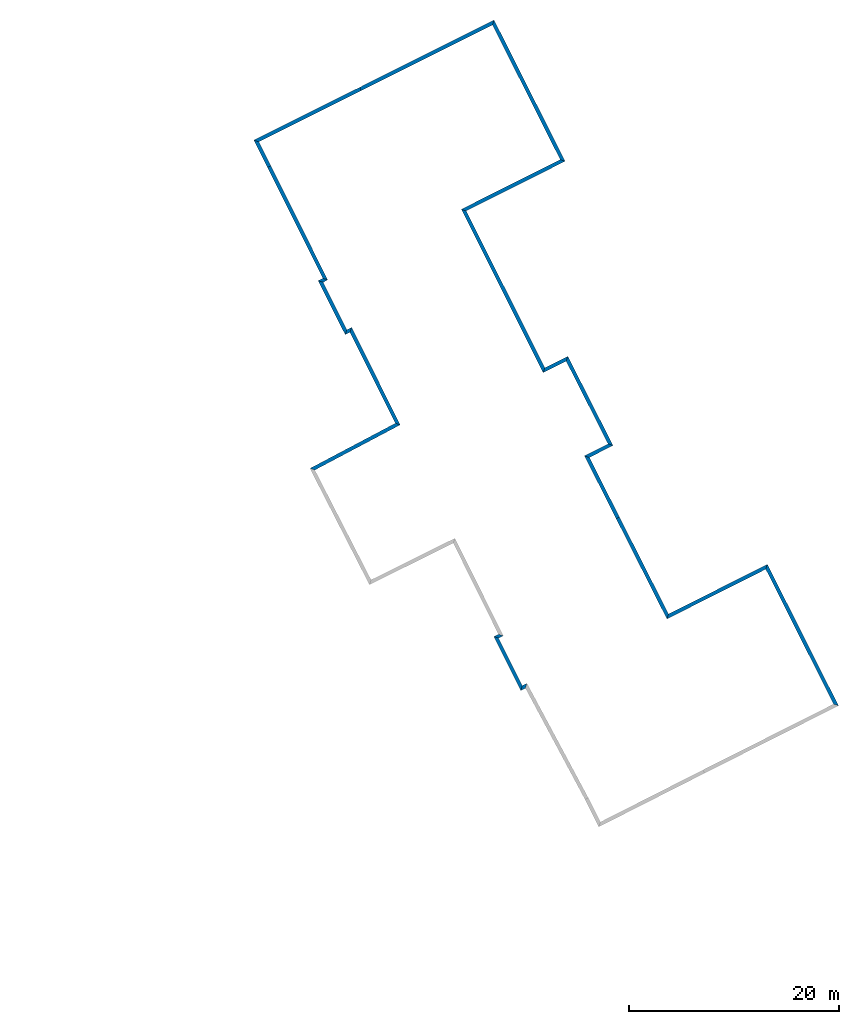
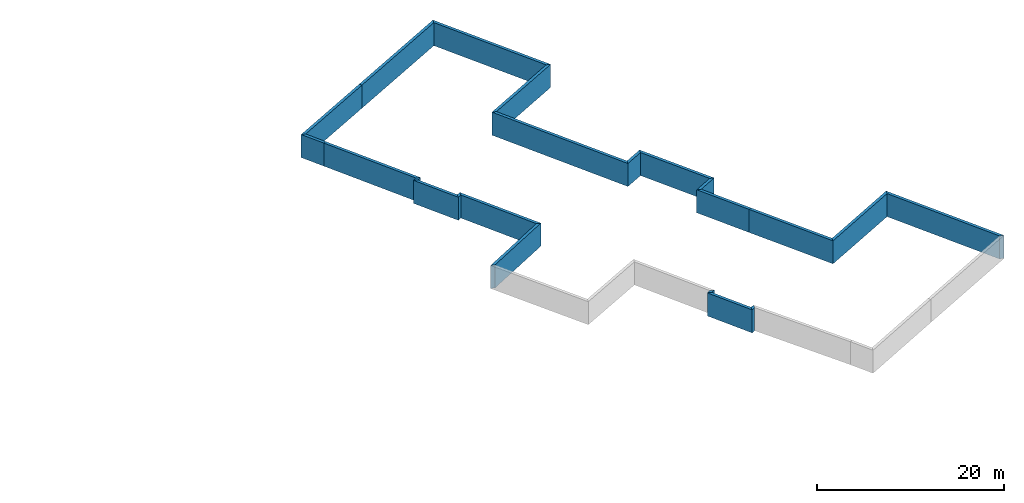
# One storey, part 2 of 8: 22 walls.
"""IFC2X3 building model written with IfcOpenShell, lengths in metres."""

from ifc_helpers import new_model, entity, si_unit, converted_unit, derived_unit, money_unit, direction, frame, origin_with_axes, place, context, subcontext, project, spatial, polyline, outline, extrude, material, layer, layer_set, layer_usage, type_object, element, save


model = new_model("IFC2X3")

# Units and contexts
model_context = context("Model", 3, precision=1e-05, world=origin_with_axes(), true_north=direction((0.0, 1.0)))
body_context = subcontext(model_context, "Body", "Model", "MODEL_VIEW")
ifc_project = project(units=[si_unit("LENGTHUNIT", "METRE"), si_unit("AREAUNIT", "SQUARE_METRE"), si_unit("VOLUMEUNIT", "CUBIC_METRE"), converted_unit("PLANEANGLEUNIT", "DEGREE", entity("IfcPlaneAngleMeasure", 0.0174532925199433), si_unit("PLANEANGLEUNIT", "RADIAN"), dimensions=[0, 0, 0, 0, 0, 0, 0]), money_unit("EUR"), converted_unit("TIMEUNIT", "Year", entity("IfcTimeMeasure", 31557600.0), si_unit("TIMEUNIT", "SECOND"), dimensions=[0, 0, 1, 0, 0, 0, 0]), si_unit("MASSUNIT", "GRAM", prefix="KILO"), si_unit("THERMODYNAMICTEMPERATUREUNIT", "DEGREE_CELSIUS"), si_unit("LUMINOUSINTENSITYUNIT", "LUMEN"), si_unit("ENERGYUNIT", "JOULE", prefix="MEGA"), derived_unit("THERMALCONDUCTANCEUNIT", [(si_unit("POWERUNIT", "WATT"), 1), (si_unit("LENGTHUNIT", "METRE"), -1), (si_unit("THERMODYNAMICTEMPERATUREUNIT", "KELVIN"), -1)]), derived_unit("SPECIFICHEATCAPACITYUNIT", [(si_unit("ENERGYUNIT", "JOULE"), 1), (si_unit("MASSUNIT", "GRAM", prefix="KILO"), -1), (si_unit("THERMODYNAMICTEMPERATUREUNIT", "KELVIN"), -1)]), derived_unit("MASSDENSITYUNIT", [(si_unit("MASSUNIT", "GRAM", prefix="KILO"), 1), (si_unit("VOLUMEUNIT", "CUBIC_METRE"), -1)])], contexts=[model_context])

# Site, building, storey
site_placement = place(None, origin_with_axes())
site = spatial("IfcSite", under=ifc_project, at=site_placement, Name="Site", CompositionType="ELEMENT")
building_placement = place(site_placement, origin_with_axes())
building = spatial("IfcBuilding", under=site, at=building_placement, Name="Bâtiment", CompositionType="ELEMENT")
storey_placement = place(building_placement, frame((0.0, 0.0, 7.12), z_axis=(0.0, 0.0, 1.0), x_axis=(1.0, 0.0, 0.0)))
storey = spatial("IfcBuildingStorey", under=building, at=storey_placement, Name="Combles", CompositionType="ELEMENT", Elevation=7.12)

# Walls
ifc_material_1 = material(Name="*GENERIQUE - ENDUIT EXT")
ifc_layer_1 = layer(ifc_material_1, 0.02, ventilated="UNKNOWN")
ifc_material_2 = material(Name="*GENERIQUE - MAÇONNERIE")
ifc_layer_2 = layer(ifc_material_2, 0.2, ventilated="UNKNOWN")
ifc_material_3 = material(Name="*GENERIQUE - ISOLATION INT")
ifc_layer_3 = layer(ifc_material_3, 0.12, ventilated="UNKNOWN")
ifc_material_4 = material(Name="*PLAQUE DE PLATRE - DOUBLAGE")
ifc_layer_4 = layer(ifc_material_4, 0.013, ventilated="UNKNOWN")
ifc_layer_set = layer_set([ifc_layer_1, ifc_layer_2, ifc_layer_3, ifc_layer_4], Name="*Mur MITI 36")
ifc_layer_usage_1 = layer_usage(ifc_layer_set, "AXIS2", "POSITIVE", -0.02)
wall_type = type_object("IfcWallType", Name="*Mur MITI 36 353", PredefinedType="NOTDEFINED")
wall_1_placement = place(storey_placement, frame((183.0845130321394, -23.9757343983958, -6.700573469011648), z_axis=(0.0, 0.0, 1.0), x_axis=(-0.8932285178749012, -0.4496029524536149, 0.0)))
element("IfcWallStandardCase", 1, at=wall_1_placement, inside=storey, type_object=wall_type, material=ifc_layer_usage_1, Name="MC_AGL_Ext-042", context=body_context, shape_type="SweptSolid", body=[
    extrude(outline(polyline([(0.01988014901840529, -0.01999999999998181), (0.5172173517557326, -0.01999999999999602), (0.1655467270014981, 0.3330000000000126), (-0.3310044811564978, 0.3329999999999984), (0.01988014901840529, -0.01999999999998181)])), origin_with_axes(), (0.0, 0.0, 1.0), 3.0),
])
ifc_layer_usage_2 = layer_usage(ifc_layer_set, "AXIS2", "POSITIVE", -0.02)
wall_2_placement = place(storey_placement, frame((182.6403170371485, -24.1993186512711, -6.700573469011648), z_axis=(0.0, 0.0, 1.0), x_axis=(0.4462295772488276, -0.8949185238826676, 0.0)))
element("IfcWallStandardCase", 2, at=wall_2_placement, inside=storey, type_object=wall_type, material=ifc_layer_usage_2, Name="MC_AGL_Ext-043", context=body_context, shape_type="SweptSolid", body=[
    extrude(outline(polyline([(-0.0199246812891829, -0.02000000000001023), (5.723185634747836, -0.02000000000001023), (5.361943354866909, 0.33299999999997), (0.3317459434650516, 0.3329999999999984), (-0.0199246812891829, -0.02000000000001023)])), origin_with_axes(), (0.0, 0.0, 1.0), 3.0),
])
ifc_layer_usage_3 = layer_usage(ifc_layer_set, "AXIS2", "POSITIVE", -0.02)
wall_3_placement = place(storey_placement, frame((185.1850387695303, -29.30278720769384, -6.700573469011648), z_axis=(0.0, 0.0, 1.0), x_axis=(0.8843826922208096, 0.4667625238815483, 0.0)))
element("IfcWallStandardCase", 3, at=wall_3_placement, inside=storey, type_object=wall_type, material=ifc_layer_usage_3, Name="MC_AGL_Ext-044", context=body_context, shape_type="SweptSolid", body=[
    extrude(outline(polyline([(-0.02046698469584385, -0.01999999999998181), (0.4801226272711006, -0.01999999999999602), (0.8309582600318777, 0.3330000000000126), (0.3407752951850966, 0.3329999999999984), (-0.02046698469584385, -0.01999999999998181)])), origin_with_axes(), (0.0, 0.0, 1.0), 3.0),
])
ifc_layer_usage_4 = layer_usage(ifc_layer_set, "AXIS2", "POSITIVE", -0.02)
wall_4_placement = place(storey_placement, frame((208.6131929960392, -17.3435025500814, -6.700573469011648), z_axis=(0.0, 0.0, 1.0), x_axis=(-0.8931855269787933, -0.4496883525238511, 0.0)))
element("IfcWallStandardCase", 4, at=wall_4_placement, inside=storey, type_object=wall_type, material=ifc_layer_usage_4, Name="MC_AGL_Ext-050", context=body_context, shape_type="SweptSolid", body=[
    extrude(outline(polyline([(-0.02000754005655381, -0.01999999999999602), (10.49598375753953, -0.01999999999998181), (10.84821639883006, 0.3329999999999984), (0.3331255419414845, 0.3330000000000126), (-0.02000754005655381, -0.01999999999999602)])), origin_with_axes(), (0.0, 0.0, 1.0), 3.0),
])
ifc_layer_usage_5 = layer_usage(ifc_layer_set, "AXIS2", "POSITIVE", -0.02)
wall_5_placement = place(storey_placement, frame((199.2205073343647, -22.07239841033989, -6.700573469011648), z_axis=(0.0, 0.0, 1.0), x_axis=(-0.4516310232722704, 0.8922048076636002, 0.0)))
element("IfcWallStandardCase", 5, at=wall_5_placement, inside=storey, type_object=wall_type, material=ifc_layer_usage_5, Name="MC_AGL_Ext-051", context=body_context, shape_type="SweptSolid", body=[
    extrude(outline(polyline([(0.019956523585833, -0.02000000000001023), (10.3562945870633, -0.02000000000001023), (10.35643300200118, 0.33299999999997), (-0.3322761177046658, 0.33299999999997), (0.019956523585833, -0.02000000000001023)])), origin_with_axes(), (0.0, 0.0, 1.0), 3.0),
])
ifc_layer_usage_6 = layer_usage(ifc_layer_set, "AXIS2", "POSITIVE", -0.02)
wall_6_placement = place(storey_placement, frame((194.5432798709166, -12.8324555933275, -6.700573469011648), z_axis=(0.0, 0.0, 1.0), x_axis=(-0.4509311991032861, 0.8925587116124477, 0.0)))
element("IfcWallStandardCase", 6, at=wall_6_placement, inside=storey, type_object=wall_type, material=ifc_layer_usage_6, Name="MC_AGL_Ext-052", context=body_context, shape_type="SweptSolid", body=[
    extrude(outline(polyline([(7.842206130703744e-06, -0.02000000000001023), (6.333469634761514, -0.02000000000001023), (6.685391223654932, 0.3329999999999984), (-0.0001305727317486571, 0.3329999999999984), (7.842206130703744e-06, -0.02000000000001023)])), origin_with_axes(), (0.0, 0.0, 1.0), 3.0),
])
ifc_layer_usage_7 = layer_usage(ifc_layer_set, "AXIS2", "POSITIVE", -0.02)
wall_7_placement = place(storey_placement, frame((191.6783297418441, -7.161665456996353, -6.700573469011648), z_axis=(0.0, 0.0, 1.0), x_axis=(0.8911748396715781, 0.4536600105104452, 0.0)))
element("IfcWallStandardCase", 7, at=wall_7_placement, inside=storey, type_object=wall_type, material=ifc_layer_usage_7, Name="MC_AGL_Ext-053", context=body_context, shape_type="SweptSolid", body=[
    extrude(outline(polyline([(0.01993890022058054, -0.01999999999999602), (2.540639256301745, -0.01999999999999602), (2.188261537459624, 0.3330000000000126), (-0.3319826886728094, 0.3330000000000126), (0.01993890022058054, -0.01999999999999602)])), origin_with_axes(), (0.0, 0.0, 1.0), 3.0),
])
ifc_layer_usage_8 = layer_usage(ifc_layer_set, "AXIS2", "POSITIVE", -0.02)
wall_8_placement = place(storey_placement, frame((193.924691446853, -6.01813623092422, -6.700573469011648), z_axis=(0.0, 0.0, 1.0), x_axis=(-0.4520869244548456, 0.8919738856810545, 0.0)))
element("IfcWallStandardCase", 8, at=wall_8_placement, inside=storey, type_object=wall_type, material=ifc_layer_usage_8, Name="MC_AGL_Ext-054", context=body_context, shape_type="SweptSolid", body=[
    extrude(outline(polyline([(-0.01996474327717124, -0.02000000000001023), (9.485964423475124, -0.01999999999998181), (9.135218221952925, 0.3329999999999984), (0.3324129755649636, 0.3330000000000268), (-0.01996474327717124, -0.02000000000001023)])), origin_with_axes(), (0.0, 0.0, 1.0), 3.0),
])
ifc_layer_usage_9 = layer_usage(ifc_layer_set, "AXIS2", "POSITIVE", -0.02)
wall_9_placement = place(storey_placement, frame((189.6451949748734, 2.425370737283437, -6.700573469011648), z_axis=(0.0, 0.0, 1.0), x_axis=(-0.8948512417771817, -0.4463644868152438, 0.0)))
element("IfcWallStandardCase", 9, at=wall_9_placement, inside=storey, type_object=wall_type, material=ifc_layer_usage_9, Name="MC_AGL_Ext-055", context=body_context, shape_type="SweptSolid", body=[
    extrude(outline(polyline([(-0.01987230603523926, -0.01999999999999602), (2.422678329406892, -0.02000000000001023), (2.775037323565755, 0.3329999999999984), (0.3308738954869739, 0.3329999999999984), (-0.01987230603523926, -0.01999999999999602)])), origin_with_axes(), (0.0, 0.0, 1.0), 3.0),
])
ifc_layer_usage_10 = layer_usage(ifc_layer_set, "AXIS2", "POSITIVE", -0.02)
wall_10_placement = place(storey_placement, frame((187.459393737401, 1.335062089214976, -6.700573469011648), z_axis=(0.0, 0.0, 1.0), x_axis=(-0.4479901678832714, 0.8940384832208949, 0.0)))
element("IfcWallStandardCase", 10, at=wall_10_placement, inside=storey, type_object=wall_type, material=ifc_layer_usage_10, Name="MC_AGL_Ext-056", context=body_context, shape_type="SweptSolid", body=[
    extrude(outline(polyline([(0.01996368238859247, -0.02000000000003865), (16.69333871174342, -0.02000000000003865), (17.04607948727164, 0.33299999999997), (-0.332395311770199, 0.33299999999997), (0.01996368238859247, -0.02000000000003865)])), origin_with_axes(), (0.0, 0.0, 1.0), 3.0),
])
ifc_layer_usage_11 = layer_usage(ifc_layer_set, "AXIS2", "POSITIVE", -0.02)
wall_11_placement = place(storey_placement, frame((179.9719889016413, 16.27741694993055, -6.700573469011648), z_axis=(0.0, 0.0, 1.0), x_axis=(0.8937091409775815, 0.4486468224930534, 0.0)))
element("IfcWallStandardCase", 11, at=wall_11_placement, inside=storey, type_object=wall_type, material=ifc_layer_usage_11, Name="MC_AGL_Ext-057", context=body_context, shape_type="SweptSolid", body=[
    extrude(outline(polyline([(0.01998531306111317, -0.01999999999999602), (10.5430071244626, -0.01999999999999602), (10.18960546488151, 0.3329999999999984), (-0.3327554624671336, 0.3329999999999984), (0.01998531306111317, -0.01999999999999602)])), origin_with_axes(), (0.0, 0.0, 1.0), 3.0),
])
ifc_layer_usage_12 = layer_usage(ifc_layer_set, "AXIS2", "POSITIVE", -0.02)
wall_12_placement = place(storey_placement, frame((189.3764762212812, 20.99852044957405, -6.700573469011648), z_axis=(0.0, 0.0, 1.0), x_axis=(-0.4496628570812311, 0.8931983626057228, 0.0)))
element("IfcWallStandardCase", 12, at=wall_12_placement, inside=storey, type_object=wall_type, material=ifc_layer_usage_12, Name="MC_AGL_Ext-017", context=body_context, shape_type="SweptSolid", body=[
    extrude(outline(polyline([(-0.02002275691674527, -0.01999999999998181), (15.01152960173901, -0.01999999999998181), (14.6593185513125, 0.3329999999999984), (0.3333789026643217, 0.3330000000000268), (-0.02002275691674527, -0.01999999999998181)])), origin_with_axes(), (0.0, 0.0, 1.0), 3.0),
])
ifc_layer_usage_13 = layer_usage(ifc_layer_set, "AXIS2", "POSITIVE", -0.02)
wall_13_placement = place(storey_placement, frame((182.635322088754, 34.38897006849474, -6.700573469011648), z_axis=(0.0, 0.0, 1.0), x_axis=(-0.8942022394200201, -0.4476632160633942, 0.0)))
element("IfcWallStandardCase", 13, at=wall_13_placement, inside=storey, type_object=wall_type, material=ifc_layer_usage_13, Name="MC_AGL_Ext-018", context=body_context, shape_type="SweptSolid", body=[
    extrude(outline(polyline([(-0.0199553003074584, -0.02000000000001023), (14.26808115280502, -0.02000000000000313), (14.26824210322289, 0.3330000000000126), (0.3322557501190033, 0.3329999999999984), (-0.0199553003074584, -0.02000000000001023)])), origin_with_axes(), (0.0, 0.0, 1.0), 3.0),
])
ifc_layer_usage_14 = layer_usage(ifc_layer_set, "AXIS2", "POSITIVE", -0.02)
wall_14_placement = place(storey_placement, frame((169.8767638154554, 28.00167089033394, -6.700573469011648), z_axis=(0.0, 0.0, 1.0), x_axis=(-0.8946100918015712, -0.4468476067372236, 0.0)))
element("IfcWallStandardCase", 14, at=wall_14_placement, inside=storey, type_object=wall_type, material=ifc_layer_usage_14, Name="MC_AGL_Ext-019", context=body_context, shape_type="SweptSolid", body=[
    extrude(outline(polyline([(9.119003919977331e-06, -0.01999999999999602), (11.24123613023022, -0.02000000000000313), (10.88781121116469, 0.3329999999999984), (-0.000151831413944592, 0.3330000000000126), (9.119003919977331e-06, -0.01999999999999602)])), origin_with_axes(), (0.0, 0.0, 1.0), 3.0),
])
ifc_layer_usage_15 = layer_usage(ifc_layer_set, "AXIS2", "POSITIVE", -0.02)
wall_15_placement = place(storey_placement, frame((161.132226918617, 20.40448230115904, -6.700573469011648), z_axis=(0.0, 0.0, 1.0), x_axis=(0.4463240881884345, -0.8948713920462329, 0.0)))
element("IfcWallStandardCase", 15, at=wall_15_placement, inside=storey, type_object=wall_type, material=ifc_layer_usage_15, Name="MC_AGL_Ext-021", context=body_context, shape_type="SweptSolid", body=[
    extrude(outline(polyline([(1.788119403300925e-05, -0.01999999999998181), (11.76916496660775, -0.02000000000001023), (12.11414718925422, 0.3329999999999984), (-0.000297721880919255, 0.3329999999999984), (1.788119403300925e-05, -0.01999999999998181)])), origin_with_axes(), (0.0, 0.0, 1.0), 3.0),
])
ifc_layer_usage_16 = layer_usage(ifc_layer_set, "AXIS2", "POSITIVE", -0.02)
wall_16_placement = place(storey_placement, frame((166.3938124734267, 9.855102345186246, -6.700573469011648), z_axis=(0.0, 0.0, 1.0), x_axis=(-0.8843826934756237, -0.466762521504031, 0.0)))
element("IfcWallStandardCase", 16, at=wall_16_placement, inside=storey, type_object=wall_type, material=ifc_layer_usage_16, Name="MC_AGL_Ext-022", context=body_context, shape_type="SweptSolid", body=[
    extrude(outline(polyline([(0.01954573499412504, -0.01999999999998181), (0.5195857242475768, -0.01999999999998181), (0.1738976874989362, 0.3330000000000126), (-0.3254364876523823, 0.3329999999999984), (0.01954573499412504, -0.01999999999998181)])), origin_with_axes(), (0.0, 0.0, 1.0), 3.0),
])
ifc_layer_usage_17 = layer_usage(ifc_layer_set, "AXIS2", "POSITIVE", -0.02)
wall_17_placement = place(storey_placement, frame((159.8381542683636, 22.98749913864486, -6.700573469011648), z_axis=(0.0, 0.0, 1.0), x_axis=(0.4479235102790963, -0.8940718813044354, 0.0)))
element("IfcWallStandardCase", 17, at=wall_17_placement, inside=storey, type_object=wall_type, material=ifc_layer_usage_17, Name="MC_AGL_Ext-020", context=body_context, shape_type="SweptSolid", body=[
    extrude(outline(polyline([(-0.02002407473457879, -0.02000000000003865), (2.889030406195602, -0.02000000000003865), (2.889346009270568, 0.33299999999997), (0.3334008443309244, 0.33299999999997), (-0.02002407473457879, -0.02000000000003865)])), origin_with_axes(), (0.0, 0.0, 1.0), 3.0),
])
ifc_layer_usage_18 = layer_usage(ifc_layer_set, "AXIS2", "POSITIVE", -0.02)
wall_18_placement = place(storey_placement, frame((165.9516211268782, 9.621721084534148, -6.700573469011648), z_axis=(0.0, 0.0, 1.0), x_axis=(0.4481517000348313, -0.8939575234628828, 0.0)))
element("IfcWallStandardCase", 18, at=wall_18_placement, inside=storey, type_object=wall_type, material=ifc_layer_usage_18, Name="MC_AGL_Ext-023", context=body_context, shape_type="SweptSolid", body=[
    extrude(outline(polyline([(-0.0195857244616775, -0.02000000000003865), (5.715679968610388, -0.02000000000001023), (5.362106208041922, 0.33299999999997), (0.3261023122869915, 0.33299999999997), (-0.0195857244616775, -0.02000000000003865)])), origin_with_axes(), (0.0, 0.0, 1.0), 3.0),
])
ifc_layer_usage_19 = layer_usage(ifc_layer_set, "AXIS2", "POSITIVE", -0.02)
wall_19_placement = place(storey_placement, frame((168.9483312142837, 4.753638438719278, -6.700573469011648), z_axis=(0.0, 0.0, 1.0), x_axis=(0.4471385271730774, -0.8944647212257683, 0.0)))
element("IfcWallStandardCase", 19, at=wall_19_placement, inside=storey, type_object=wall_type, material=ifc_layer_usage_19, Name="MC_AGL_Ext-025", context=body_context, shape_type="SweptSolid", body=[
    extrude(outline(polyline([(0.02005521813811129, -0.02000000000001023), (9.680812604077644, -0.02000000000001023), (10.02583859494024, 0.33299999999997), (-0.3339193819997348, 0.3329999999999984), (0.02005521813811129, -0.02000000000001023)])), origin_with_axes(), (0.0, 0.0, 1.0), 3.0),
])
ifc_layer_usage_20 = layer_usage(ifc_layer_set, "AXIS2", "POSITIVE", -0.02)
wall_20_placement = place(storey_placement, frame((215.3583564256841, -30.75354618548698, -6.700573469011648), z_axis=(0.0, 0.0, 1.0), x_axis=(-0.4493516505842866, 0.8933549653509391, 0.0)))
element("IfcWallStandardCase", 20, at=wall_20_placement, inside=storey, type_object=wall_type, material=ifc_layer_usage_20, Name="MC_AGL_Ext-049", context=body_context, shape_type="SweptSolid", body=[
    extrude(outline(polyline([(-0.01998251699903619, -0.01999999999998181), (15.03088692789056, -0.01999999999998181), (14.67775384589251, 0.3330000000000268), (0.3327089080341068, 0.3330000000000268), (-0.01998251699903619, -0.01999999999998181)])), origin_with_axes(), (0.0, 0.0, 1.0), 3.0),
])
ifc_layer_usage_21 = layer_usage(ifc_layer_set, "AXIS2", "POSITIVE", -0.02)
wall_21_placement = place(storey_placement, frame((173.2857362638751, -3.922992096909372, -6.700573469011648), z_axis=(0.0, 0.0, 1.0), x_axis=(-0.884016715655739, -0.4674552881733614, 0.0)))
element("IfcWallStandardCase", 21, at=wall_21_placement, inside=storey, type_object=wall_type, material=ifc_layer_usage_21, Name="MC_AGL_Ext-026", context=body_context, shape_type="SweptSolid", body=[
    extrude(outline(polyline([(0.01954821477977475, -0.02000000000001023), (9.209604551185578, -0.01999999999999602), (8.861217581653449, 0.3329999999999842), (-0.3254777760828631, 0.3329999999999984), (0.01954821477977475, -0.02000000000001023)])), origin_with_axes(), (0.0, 0.0, 1.0), 3.0),
])
ifc_layer_usage_22 = layer_usage(ifc_layer_set, "AXIS2", "POSITIVE", -0.02)
wall_22_placement = place(storey_placement, frame((168.5041352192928, 4.530054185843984, -6.700573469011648), z_axis=(0.0, 0.0, 1.0), x_axis=(0.8932285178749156, 0.4496029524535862, 0.0)))
element("IfcWallStandardCase", 22, at=wall_22_placement, inside=storey, type_object=wall_type, material=ifc_layer_usage_22, Name="MC_AGL_Ext-024", context=body_context, shape_type="SweptSolid", body=[
    extrude(outline(polyline([(-0.02003250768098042, -0.01999999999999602), (0.4772374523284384, -0.01999999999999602), (0.8312120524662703, 0.3329999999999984), (0.3335412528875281, 0.3330000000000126), (-0.02003250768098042, -0.01999999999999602)])), origin_with_axes(), (0.0, 0.0, 1.0), 3.0),
])

save(model, "model.ifc")
